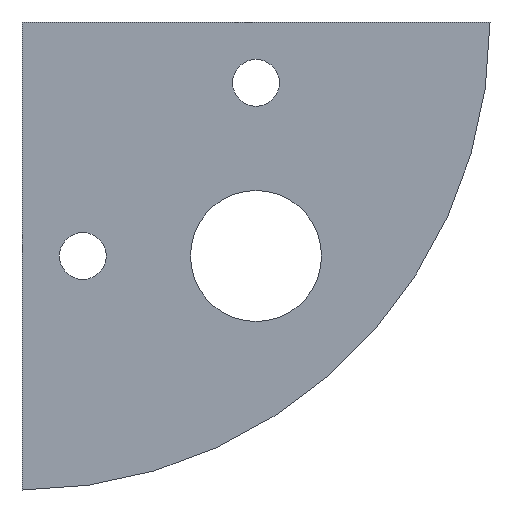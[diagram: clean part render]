
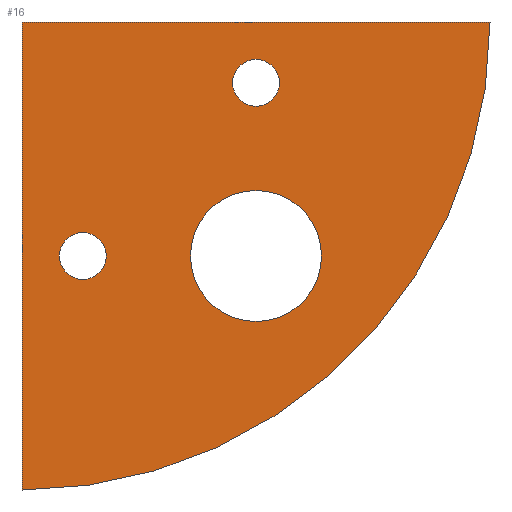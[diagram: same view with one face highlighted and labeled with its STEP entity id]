
A CAD part, front view. The second image highlights one B-rep face of the part: STEP entity #16.
In plain terms, the highlighted planar face has unit normal (0, -1, 0).
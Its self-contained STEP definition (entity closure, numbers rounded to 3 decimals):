
#1 = CARTESIAN_POINT ( 'NONE',  ( 25., -6., -4. ) ) ;
#6 = VERTEX_POINT ( 'NONE', #428 ) ;
#11 = CARTESIAN_POINT ( 'NONE',  ( 0., -6., -50. ) ) ;
#16 = ADVANCED_FACE ( 'NONE', ( #339, #72, #401, #242 ), #113, .F. ) ;
#22 = CARTESIAN_POINT ( 'NONE',  ( 6.5, -6., -25. ) ) ;
#24 = CIRCLE ( 'NONE', #363, 50. ) ;
#32 = EDGE_CURVE ( 'NONE', #163, #107, #245, .T. ) ;
#36 = CIRCLE ( 'NONE', #197, 2.5 ) ;
#39 = EDGE_CURVE ( 'NONE', #193, #419, #269, .T. ) ;
#44 = CARTESIAN_POINT ( 'NONE',  ( 0., -6., 0. ) ) ;
#55 = EDGE_CURVE ( 'NONE', #324, #103, #36, .T. ) ;
#56 = DIRECTION ( 'NONE',  ( 0., 1., 0. ) ) ;
#72 = FACE_BOUND ( 'NONE', #254, .T. ) ;
#77 = AXIS2_PLACEMENT_3D ( 'NONE', #206, #56, #142 ) ;
#78 = CARTESIAN_POINT ( 'NONE',  ( 6.5, -6., -22.5 ) ) ;
#81 = CARTESIAN_POINT ( 'NONE',  ( 25., -6., -6.5 ) ) ;
#96 = AXIS2_PLACEMENT_3D ( 'NONE', #249, #289, #152 ) ;
#98 = VECTOR ( 'NONE', #354, 1000. ) ;
#103 = VERTEX_POINT ( 'NONE', #78 ) ;
#105 = VECTOR ( 'NONE', #385, 1000. ) ;
#107 = VERTEX_POINT ( 'NONE', #177 ) ;
#112 = DIRECTION ( 'NONE',  ( 0., 1., 0. ) ) ;
#113 = PLANE ( 'NONE',  #77 ) ;
#114 = EDGE_CURVE ( 'NONE', #6, #163, #214, .T. ) ;
#118 = DIRECTION ( 'NONE',  ( 0., 0., 1. ) ) ;
#122 = CIRCLE ( 'NONE', #276, 2.5 ) ;
#127 = EDGE_LOOP ( 'NONE', ( #397, #244 ) ) ;
#130 = ORIENTED_EDGE ( 'NONE', *, *, #166, .T. ) ;
#131 = DIRECTION ( 'NONE',  ( 0., 1., 0. ) ) ;
#132 = EDGE_LOOP ( 'NONE', ( #361, #284, #156 ) ) ;
#141 = EDGE_CURVE ( 'NONE', #293, #236, #221, .T. ) ;
#142 = DIRECTION ( 'NONE',  ( 0., 0., 1. ) ) ;
#152 = DIRECTION ( 'NONE',  ( 0., 0., 1. ) ) ;
#156 = ORIENTED_EDGE ( 'NONE', *, *, #32, .F. ) ;
#159 = CARTESIAN_POINT ( 'NONE',  ( 25., -6., -25. ) ) ;
#163 = VERTEX_POINT ( 'NONE', #349 ) ;
#166 = EDGE_CURVE ( 'NONE', #419, #193, #217, .T. ) ;
#170 = DIRECTION ( 'NONE',  ( 0., 0., 1. ) ) ;
#177 = CARTESIAN_POINT ( 'NONE',  ( 50., -6., 0. ) ) ;
#183 = CARTESIAN_POINT ( 'NONE',  ( 25., -6., -18. ) ) ;
#188 = CARTESIAN_POINT ( 'NONE',  ( 6.5, -6., -27.5 ) ) ;
#193 = VERTEX_POINT ( 'NONE', #294 ) ;
#197 = AXIS2_PLACEMENT_3D ( 'NONE', #409, #212, #170 ) ;
#206 = CARTESIAN_POINT ( 'NONE',  ( 0., -6., 0. ) ) ;
#212 = DIRECTION ( 'NONE',  ( 0., 1., 0. ) ) ;
#213 = CIRCLE ( 'NONE', #268, 7. ) ;
#214 = LINE ( 'NONE', #11, #98 ) ;
#215 = CARTESIAN_POINT ( 'NONE',  ( 0., -6., 0. ) ) ;
#217 = CIRCLE ( 'NONE', #96, 2.5 ) ;
#218 = DIRECTION ( 'NONE',  ( 0., 1., 0. ) ) ;
#220 = DIRECTION ( 'NONE',  ( 0., 1., 0. ) ) ;
#221 = CIRCLE ( 'NONE', #405, 7. ) ;
#234 = EDGE_CURVE ( 'NONE', #103, #324, #122, .T. ) ;
#236 = VERTEX_POINT ( 'NONE', #183 ) ;
#239 = DIRECTION ( 'NONE',  ( 0., 0., 1. ) ) ;
#242 = FACE_OUTER_BOUND ( 'NONE', #132, .T. ) ;
#244 = ORIENTED_EDGE ( 'NONE', *, *, #141, .T. ) ;
#245 = LINE ( 'NONE', #44, #105 ) ;
#249 = CARTESIAN_POINT ( 'NONE',  ( 25., -6., -6.5 ) ) ;
#254 = EDGE_LOOP ( 'NONE', ( #130, #370 ) ) ;
#268 = AXIS2_PLACEMENT_3D ( 'NONE', #159, #131, #297 ) ;
#269 = CIRCLE ( 'NONE', #320, 2.5 ) ;
#274 = EDGE_CURVE ( 'NONE', #107, #6, #24, .T. ) ;
#276 = AXIS2_PLACEMENT_3D ( 'NONE', #22, #218, #288 ) ;
#284 = ORIENTED_EDGE ( 'NONE', *, *, #274, .F. ) ;
#285 = DIRECTION ( 'NONE',  ( 0., 1., 0. ) ) ;
#288 = DIRECTION ( 'NONE',  ( 0., 0., 1. ) ) ;
#289 = DIRECTION ( 'NONE',  ( 0., 1., 0. ) ) ;
#293 = VERTEX_POINT ( 'NONE', #355 ) ;
#294 = CARTESIAN_POINT ( 'NONE',  ( 25., -6., -9. ) ) ;
#297 = DIRECTION ( 'NONE',  ( 0., 0., 1. ) ) ;
#320 = AXIS2_PLACEMENT_3D ( 'NONE', #81, #285, #239 ) ;
#324 = VERTEX_POINT ( 'NONE', #188 ) ;
#339 = FACE_BOUND ( 'NONE', #382, .T. ) ;
#349 = CARTESIAN_POINT ( 'NONE',  ( 0., -6., 0. ) ) ;
#354 = DIRECTION ( 'NONE',  ( 0., 0., 1. ) ) ;
#355 = CARTESIAN_POINT ( 'NONE',  ( 25., -6., -32. ) ) ;
#361 = ORIENTED_EDGE ( 'NONE', *, *, #114, .F. ) ;
#362 = DIRECTION ( 'NONE',  ( 0., 0., 1. ) ) ;
#363 = AXIS2_PLACEMENT_3D ( 'NONE', #215, #220, #362 ) ;
#370 = ORIENTED_EDGE ( 'NONE', *, *, #39, .T. ) ;
#382 = EDGE_LOOP ( 'NONE', ( #403, #423 ) ) ;
#385 = DIRECTION ( 'NONE',  ( 1., 0., 0. ) ) ;
#395 = EDGE_CURVE ( 'NONE', #236, #293, #213, .T. ) ;
#397 = ORIENTED_EDGE ( 'NONE', *, *, #395, .T. ) ;
#401 = FACE_BOUND ( 'NONE', #127, .T. ) ;
#403 = ORIENTED_EDGE ( 'NONE', *, *, #234, .T. ) ;
#405 = AXIS2_PLACEMENT_3D ( 'NONE', #411, #112, #118 ) ;
#409 = CARTESIAN_POINT ( 'NONE',  ( 6.5, -6., -25. ) ) ;
#411 = CARTESIAN_POINT ( 'NONE',  ( 25., -6., -25. ) ) ;
#419 = VERTEX_POINT ( 'NONE', #1 ) ;
#423 = ORIENTED_EDGE ( 'NONE', *, *, #55, .T. ) ;
#428 = CARTESIAN_POINT ( 'NONE',  ( 0., -6., -50. ) ) ;
